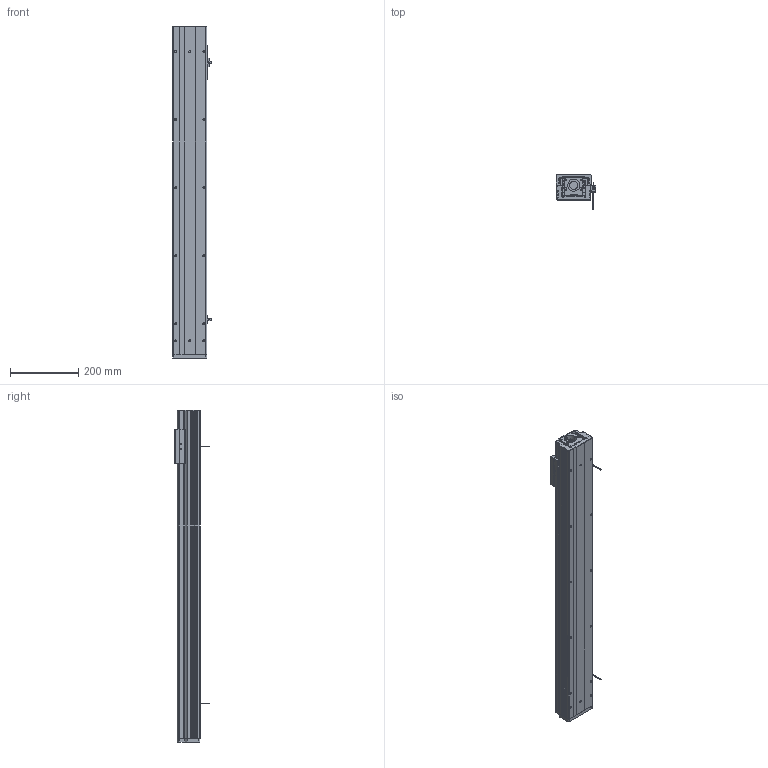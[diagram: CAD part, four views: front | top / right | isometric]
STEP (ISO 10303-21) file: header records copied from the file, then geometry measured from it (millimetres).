
FILE_DESCRIPTION (( 'STEP AP203' ), '1' );
FILE_NAME ('CTHM10-S750-O-BC.STEP', '2019-12-18T01:05:02', ( '微软用户' ), ( '微软中国' ), 'SwSTEP 2.0', 'SolidWorks 2017', '' );
FILE_SCHEMA (( 'CONFIG_CONTROL_DESIGN' ));
Length unit declared in the file: millimetre
Products named in the file (11): CTHM10裔啣(100); CTHM10傷裔(祥結裔啣); CTHM10綴傷裔; 覜茼え; 遣喳蝶15x12x8; CTHM10菁釱(200); EE-SX672-BR; CTHM10痄雄釱(党蜊); CTHM10-S750-O-BC; CTHM10盓傅耜; CTHM10固定侧自制轴承座
Assembly tree (14 placements, depth 2):
  CTHM10-S750-O-BC
    CTHM10菁釱(200)
    CTHM10痄雄釱(党蜊)
    CTHM10盓傅耜
    CTHM10固定侧自制轴承座
    CTHM10裔啣(100)
    CTHM10傷裔(祥結裔啣)
    CTHM10綴傷裔
    覜茼え
    遣喳蝶15x12x8  x4
    EE-SX672-BR  x2
Bounding box: 114.7 x 100.2 x 975 mm (x, y, z)
Volume: 2511516.4 mm3; surface area: 842605.4 mm2
Topology: 14 solids, 14 shells, 960 faces, 2722 edges, 1776 vertices
Faces by surface type: cylinder 517, plane 399, cone 44
Entity records: 32565 total; most frequent: CARTESIAN_POINT 7857, DIRECTION 4964, ORIENTED_EDGE 4916, EDGE_CURVE 2458, AXIS2_PLACEMENT_3D 1821, VERTEX_POINT 1624, LINE 1322, VECTOR 1322
